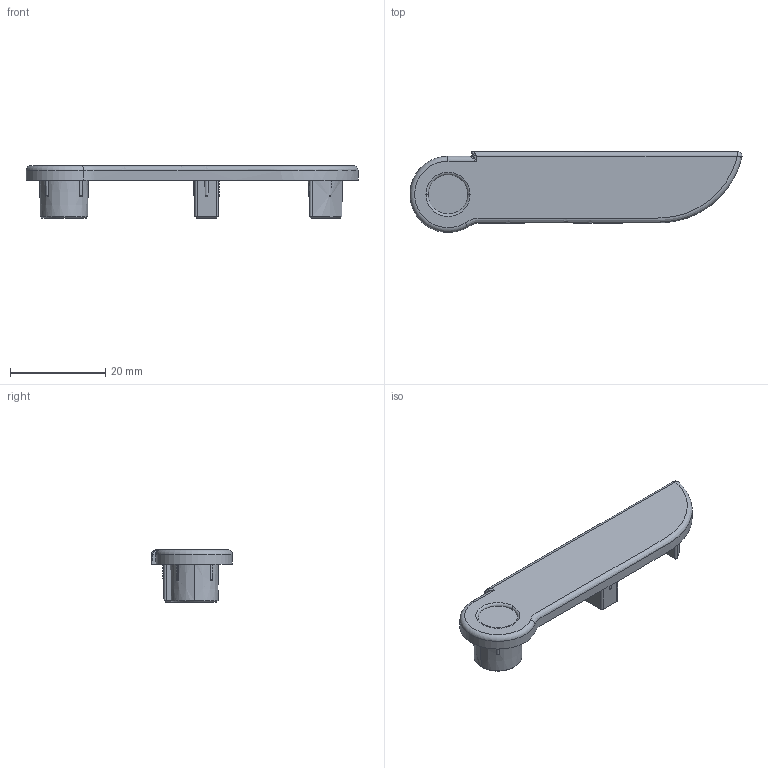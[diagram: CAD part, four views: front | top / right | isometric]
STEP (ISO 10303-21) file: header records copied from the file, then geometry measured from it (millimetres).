
FILE_DESCRIPTION (( 'STEP AP214' ), '1' );
FILE_NAME ('013.000.003C.STEP', '2021-10-12T15:28:49', ( '' ), ( '' ), 'SwSTEP 2.0', 'SolidWorks 2018', '' );
FILE_SCHEMA (( 'AUTOMOTIVE_DESIGN' ));
Length unit declared in the file: millimetre
Products named in the file (1): 013.000.003C
Bounding box: 69.75 x 16.99 x 11 mm (x, y, z)
Volume: 3362.2 mm3; surface area: 3589.7 mm2
Topology: 1 solids, 1 shells, 122 faces, 300 edges, 183 vertices
Faces by surface type: cone 47, plane 33, torus 28, cylinder 6, bspline 6, sphere 2
Entity records: 4333 total; most frequent: CARTESIAN_POINT 1499, DIRECTION 590, ORIENTED_EDGE 590, EDGE_CURVE 295, AXIS2_PLACEMENT_3D 244, VERTEX_POINT 183, EDGE_LOOP 130, CIRCLE 127
